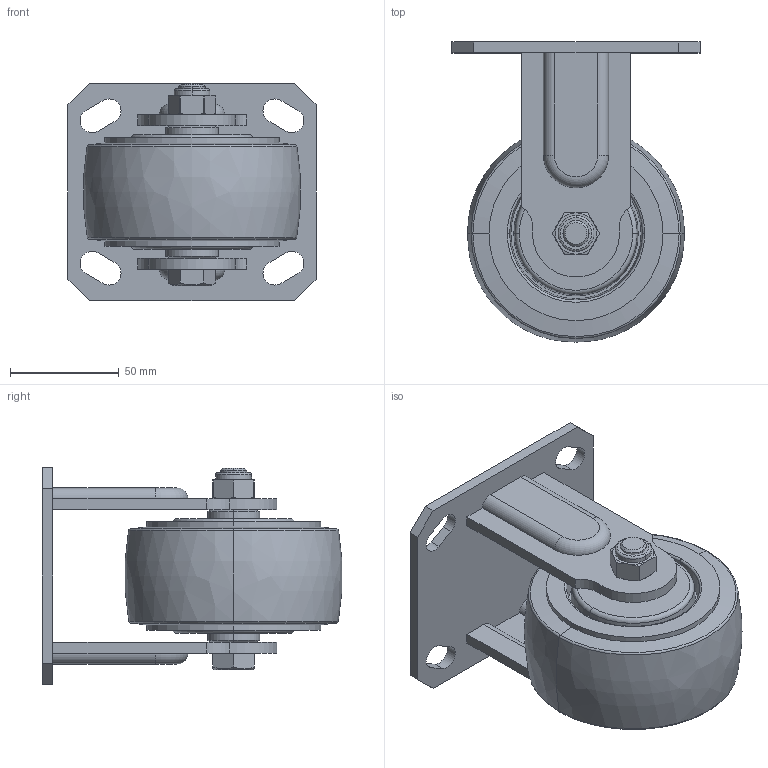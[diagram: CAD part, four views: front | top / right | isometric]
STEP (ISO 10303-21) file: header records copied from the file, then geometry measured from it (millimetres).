
FILE_DESCRIPTION((''),'2;1');
FILE_NAME('S7104_ASM','2021-10-19T',('lenovo'),(''),'PRO/ENGINEER BY PARAMETRIC TECHNOLOGY CORPORATION, 2010280','PRO/ENGINEER BY PARAMETRIC TECHNOLOGY CORPORATION, 2010280','');
FILE_SCHEMA(('CONFIG_CONTROL_DESIGN'));
Length unit declared in the file: millimetre
Products named in the file (6): S710C00; S714C10; S710-33; S710-34; 704-986; S7104_ASM
Assembly tree (6 placements, depth 2):
  S7104_ASM
    S710C00
    S714C10  x2
    S710-33
    S710-34
    704-986
Bounding box: 114 x 137.82 x 100 mm (x, y, z)
Volume: 479705.4 mm3; surface area: 90298.8 mm2
Topology: 6 solids, 6 shells, 162 faces, 382 edges, 240 vertices
Faces by surface type: plane 58, cylinder 48, cone 34, torus 20, bspline 2
Entity records: 4485 total; most frequent: CARTESIAN_POINT 960, DIRECTION 772, ORIENTED_EDGE 668, EDGE_CURVE 334, AXIS2_PLACEMENT_3D 314, VERTEX_POINT 208, EDGE_LOOP 166, CIRCLE 160
